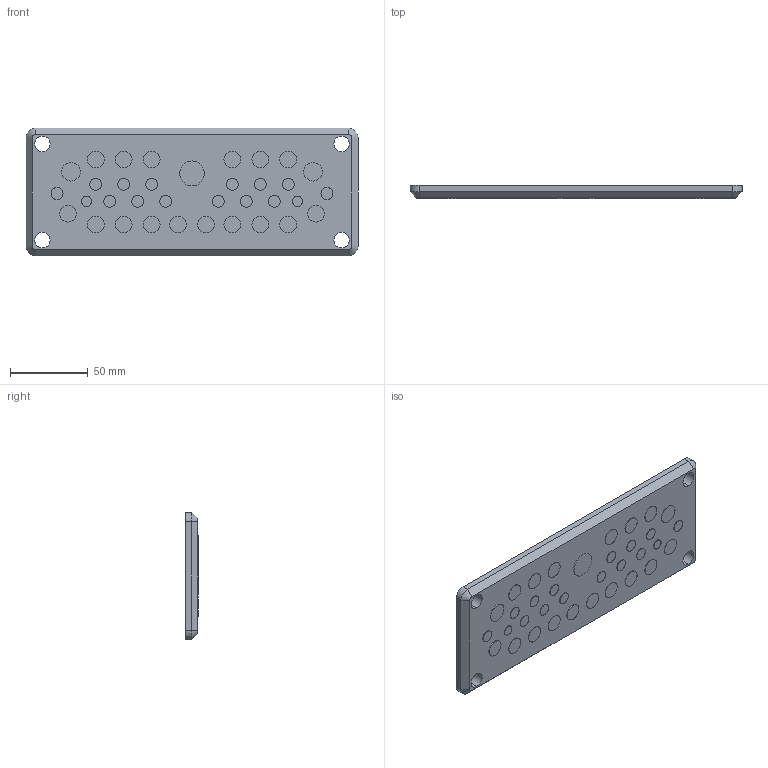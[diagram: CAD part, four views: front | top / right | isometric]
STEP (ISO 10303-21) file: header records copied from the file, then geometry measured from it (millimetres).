
FILE_DESCRIPTION (( 'STEP AP203' ), '1' );
FILE_NAME ('100241.STEP', '2012-12-12T08:16:07', ( 'Joni' ), ( 'Hewlett-Packard Company' ), 'SwSTEP 2.0', 'SolidWorks 2012', '' );
FILE_SCHEMA (( 'CONFIG_CONTROL_DESIGN' ));
Length unit declared in the file: millimetre
Products named in the file (1): 100241
Bounding box: 214 x 8.3 x 82 mm (x, y, z)
Volume: 114235.6 mm3; surface area: 46855.6 mm2
Topology: 1 solids, 1 shells, 236 faces, 484 edges, 320 vertices
Faces by surface type: cylinder 152, plane 80, cone 4
Entity records: 6465 total; most frequent: DIRECTION 1266, CARTESIAN_POINT 1041, ORIENTED_EDGE 968, AXIS2_PLACEMENT_3D 545, EDGE_CURVE 484, VERTEX_POINT 320, EDGE_LOOP 314, CIRCLE 308
